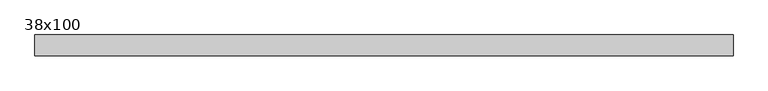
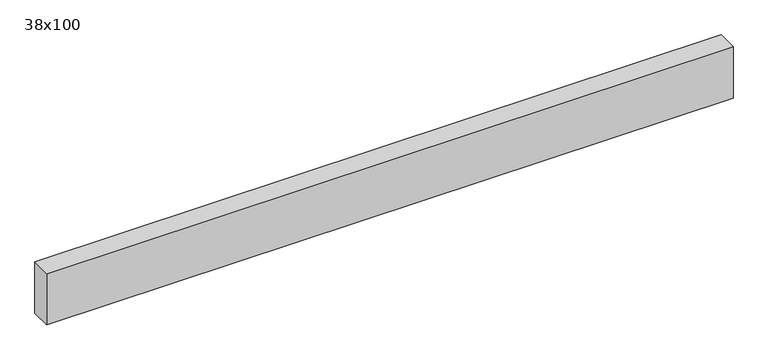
"""IFC4 building model written with IfcOpenShell, lengths in millimetres: beam geometry, Poutre - Bois de construction de dimensions courantes : 38x100."""

import ifcopenshell
import ifcopenshell.guid

model = None  # the IFC model being written
_history = None  # IfcOwnerHistory: only IFC2X3 demands one
_inside = {}  # id of a spatial element -> (the spatial element, [elements in it])
_under = {}  # id of a project, library or spatial element -> (it, [spatial elements below it])
_declared = {}  # id of a project -> (the project, [libraries it declares])
_typed = {}  # id of a type object -> (the type object, [elements of that type])
_made_of = {}  # id of a material, layer set ... -> (it, [elements and type objects made of it])


def new_model(schema):
    """Start an empty IFC model of exactly this schema.

    Asked for "IFC4X3", IfcOpenShell would pick the latest addendum, in which some entities
    have other attributes; the version numbers below select the first issue.
    IFC2X3 requires an IfcOwnerHistory on every rooted entity: one is made here for all.
    """
    global model, _history
    if schema == "IFC4X3":
        model = ifcopenshell.file(schema_version=(4, 3, 0, 0))
    else:
        model = ifcopenshell.file(schema=schema)
    _inside.clear()
    _under.clear()
    _declared.clear()
    _typed.clear()
    _made_of.clear()
    _history = None
    if model.schema == "IFC2X3":
        org = make("IfcOrganization", Name="unknown")
        user = make(
            "IfcPersonAndOrganization",
            ThePerson=make("IfcPerson", FamilyName="unknown"),
            TheOrganization=org,
        )
        app = make(
            "IfcApplication",
            ApplicationDeveloper=org,
            Version="unknown",
            ApplicationFullName="unknown",
            ApplicationIdentifier="unknown",
        )
        _history = make(
            "IfcOwnerHistory",
            OwningUser=user,
            OwningApplication=app,
            ChangeAction="ADDED",
            CreationDate=0,
        )
    return model


def make(cls, **values):
    """One entity of the class cls with the attributes given. An attribute that is None is left unset."""
    return model.create_entity(
        cls, **{name: value for name, value in values.items() if value is not None}
    )


def rooted(cls, **values):
    """An entity with a GlobalId (a new one), such as an element, a storey or a relation."""
    return make(cls, GlobalId=ifcopenshell.guid.new(), OwnerHistory=_history, **values)


def si_unit(unit_type, name, prefix=None):
    """IfcSIUnit, for example si_unit("LENGTHUNIT", "METRE", prefix="MILLI")."""
    return make("IfcSIUnit", UnitType=unit_type, Prefix=prefix, Name=name)


def assignment(units):
    """IfcUnitAssignment: the units of a project."""
    return None if units is None else make("IfcUnitAssignment", Units=units)


def point(xyz):
    """IfcCartesianPoint."""
    return None if xyz is None else make("IfcCartesianPoint", Coordinates=xyz)


def direction(xyz):
    """IfcDirection."""
    return None if xyz is None else make("IfcDirection", DirectionRatios=xyz)


def frame(location, z_axis=None, x_axis=None):
    """IfcAxis2Placement3D, a coordinate frame: its origin and axes. An axis left out is left unset."""
    return make(
        "IfcAxis2Placement3D",
        Location=point(location),
        Axis=direction(z_axis),
        RefDirection=direction(x_axis),
    )


def origin():
    """The frame at (0, 0, 0) with its axes left unset."""
    return frame((0.0, 0.0, 0.0))


def place(relative_to, where):
    """IfcLocalPlacement: puts the frame where relative to a parent placement (None: the world)."""
    return make(
        "IfcLocalPlacement", PlacementRelTo=relative_to, RelativePlacement=where
    )


def context(
    kind, dimensions, precision=None, world=None, true_north=None, identifier=None
):
    """IfcGeometricRepresentationContext, for example the 3D "Model" context."""
    return make(
        "IfcGeometricRepresentationContext",
        ContextIdentifier=identifier,
        ContextType=kind,
        CoordinateSpaceDimension=dimensions,
        Precision=precision,
        WorldCoordinateSystem=world,
        TrueNorth=true_north,
    )


def project(units=None, contexts=None):
    """IfcProject with its units and contexts."""
    return rooted(
        "IfcProject",
        Name="project",
        RepresentationContexts=contexts,
        UnitsInContext=assignment(units),
    )


def spatial(cls, under=None, at=None, **own):
    """A site, building, storey or space (cls), placed at a placement, below another one or the project."""
    s = rooted(cls, ObjectPlacement=at, **own)
    if under is not None:
        _under.setdefault(under.id(), (under, []))[1].append(s)
    return s


def polyline(points):
    """IfcPolyline through the points."""
    return make("IfcPolyline", Points=[point(p) for p in points])


def outline(outer, holes=None, kind="AREA"):
    """IfcArbitraryClosedProfileDef: a profile drawn as a closed curve; with holes, ...WithVoids."""
    if holes is None:
        return make("IfcArbitraryClosedProfileDef", ProfileType=kind, OuterCurve=outer)
    return make(
        "IfcArbitraryProfileDefWithVoids",
        ProfileType=kind,
        OuterCurve=outer,
        InnerCurves=holes,
    )


def extrude(swept, where, along, depth):
    """IfcExtrudedAreaSolid: the profile swept, set in the frame where, extruded along a direction by depth."""
    return make(
        "IfcExtrudedAreaSolid",
        SweptArea=swept,
        Position=where,
        ExtrudedDirection=direction(along),
        Depth=depth,
    )


def shape(context_of_items, identifier, shape_type, items):
    """IfcShapeRepresentation: the items that make up one representation, for example the "Body"."""
    return make(
        "IfcShapeRepresentation",
        ContextOfItems=context_of_items,
        RepresentationIdentifier=identifier,
        RepresentationType=shape_type,
        Items=items,
    )


def source(mapping_origin, context_of_items, identifier, shape_type, items):
    """IfcRepresentationMap: a shape defined once, which mapped items show again and again."""
    return make(
        "IfcRepresentationMap",
        MappingOrigin=mapping_origin,
        MappedRepresentation=shape(context_of_items, identifier, shape_type, items),
    )


def transform(
    local_origin,
    x_axis=None,
    y_axis=None,
    z_axis=None,
    scale=None,
    scale2=None,
    scale3=None,
    uniform=True,
):
    """IfcCartesianTransformationOperator3D, or its non-uniform kind. x_axis, y_axis, z_axis: its Axis1, 2, 3."""
    if uniform:
        return make(
            "IfcCartesianTransformationOperator3D",
            Axis1=direction(x_axis),
            Axis2=direction(y_axis),
            LocalOrigin=point(local_origin),
            Scale=scale,
            Axis3=direction(z_axis),
        )
    return make(
        "IfcCartesianTransformationOperator3DnonUniform",
        Axis1=direction(x_axis),
        Axis2=direction(y_axis),
        LocalOrigin=point(local_origin),
        Scale=scale,
        Axis3=direction(z_axis),
        Scale2=scale2,
        Scale3=scale3,
    )


def mapped(mapping_source, mapping_target):
    """IfcMappedItem: shows the shape of a source again, moved by a transform."""
    return make(
        "IfcMappedItem", MappingSource=mapping_source, MappingTarget=mapping_target
    )


def made_of(thing, what):
    """Note that an element or type object is made of a material, layer set ...; save() writes the relation."""
    if what is not None:
        _made_of.setdefault(what.id(), (what, []))[1].append(thing)
    return thing


def element(
    cls,
    number,
    at=None,
    inside=None,
    cuts=None,
    type_object=None,
    material=None,
    context=None,
    identifier="Body",
    shape_type=None,
    held_by="IfcProductDefinitionShape",
    body=None,
    shapes=None,
    **own,
):
    """One element of the class cls, such as IfcWall. Its Tag is "e" and its number.

    at: its placement. inside: the storey or other place that contains it. cuts: it is an
    opening in that element (IfcRelVoidsElement). A single representation is given by context,
    identifier, shape_type and body (its items); several are given by shapes. held_by: the class
    of the entity that holds the representations. save() writes the other relations.
    """
    e = rooted(cls, Tag="e%d" % number, ObjectPlacement=at, **own)
    if body is not None:
        shapes = [shape(context, identifier, shape_type, body)]
    if shapes is not None:
        e.Representation = make(held_by, Representations=shapes)
    if inside is not None:
        _inside.setdefault(inside.id(), (inside, []))[1].append(e)
    if cuts is not None:
        rooted(
            "IfcRelVoidsElement", RelatingBuildingElement=cuts, RelatedOpeningElement=e
        )
    if type_object is not None:
        _typed.setdefault(type_object.id(), (type_object, []))[1].append(e)
    return made_of(e, material)


def aggregate(whole, parts):
    """IfcRelAggregates: a whole, such as a stair, and the parts it consists of."""
    return rooted("IfcRelAggregates", RelatingObject=whole, RelatedObjects=parts)


def save(model, path):
    """Write the relations noted so far, then the file.

    IfcRelAggregates (storeys below a building ...), IfcRelContainedInSpatialStructure (elements
    in a storey), IfcRelDefinesByType, IfcRelAssociatesMaterial and IfcRelDeclares: one each for
    every whole, place, type object, material and project.
    """
    for whole, parts in _under.values():
        aggregate(whole, parts)
    for where, things in _inside.values():
        rooted(
            "IfcRelContainedInSpatialStructure",
            RelatedElements=things,
            RelatingStructure=where,
        )
    for kind, things in _typed.values():
        rooted("IfcRelDefinesByType", RelatedObjects=things, RelatingType=kind)
    for what, things in _made_of.values():
        rooted("IfcRelAssociatesMaterial", RelatedObjects=things, RelatingMaterial=what)
    for by, libraries in _declared.values():
        rooted("IfcRelDeclares", RelatingContext=by, RelatedDefinitions=libraries)
    model.write(path)


def beam_38x100_cd7a17ee(model_context):
    return source(origin(), model_context, "Body", "SweptSolid", [
        extrude(outline(polyline([(583.5, 19.05), (583.5, -19.05), (-680.5, -19.05), (-680.5, 19.05), (583.5, 19.05)])), frame((0.0, 0.0, -50.0), z_axis=(0.0, 0.0, 1.0), x_axis=(1.0, 0.0, 0.0)), (0.0, 0.0, 1.0), 100.0),
    ])


if __name__ == "__main__":
    model = new_model("IFC4")
    model_context = context("Model", 3, world=origin())
    ifc_project = project(units=[si_unit("LENGTHUNIT", "METRE", prefix="MILLI")], contexts=[model_context])
    site = spatial("IfcSite", under=ifc_project)
    building = spatial("IfcBuilding", under=site)
    placement = place(None, origin())
    beam_38x100_shape = beam_38x100_cd7a17ee(model_context)
    element("IfcBeam", 1, ObjectType="Poutre - Bois de construction de dimensions courantes : 38x100", at=placement, inside=building, context=model_context, shape_type="MappedRepresentation", body=[
        mapped(beam_38x100_shape, transform((0.0, 0.0, 0.0), x_axis=(1.0, 0.0, 0.0), y_axis=(0.0, 1.0, 0.0), z_axis=(0.0, 0.0, 1.0))),
    ])
    save(model, "model.ifc")
